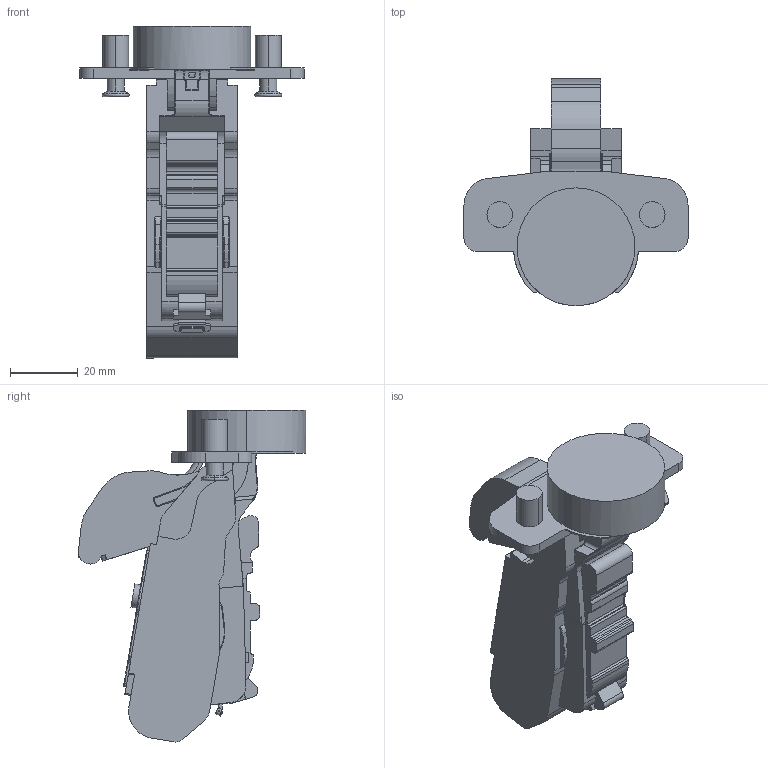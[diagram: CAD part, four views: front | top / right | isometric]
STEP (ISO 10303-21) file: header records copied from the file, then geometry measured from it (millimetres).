
FILE_DESCRIPTION (( 'STEP AP203' ), '1' );
FILE_NAME ('C81A805KFAB DTC 3D CLOSE.STEP', '2024-07-30T01:48:08', ( '微软用户' ), ( '微软中国' ), 'SwSTEP 2.0', 'SolidWorks 2021', '' );
FILE_SCHEMA (( 'CONFIG_CONTROL_DESIGN' ));
Length unit declared in the file: millimetre
Products named in the file (1): C81A805KFAB DTC 3D CLOSE
Bounding box: 66.2 x 67.21 x 98.04 mm (x, y, z)
Volume: 81991.4 mm3; surface area: 19554.7 mm2
Topology: 1 solids, 9 shells, 709 faces, 1946 edges, 1260 vertices
Faces by surface type: plane 307, cylinder 284, torus 83, bspline 16, cone 12, sphere 7
Entity records: 23872 total; most frequent: CARTESIAN_POINT 5707, ORIENTED_EDGE 3888, DIRECTION 3810, EDGE_CURVE 1944, AXIS2_PLACEMENT_3D 1355, VERTEX_POINT 1260, LINE 1100, VECTOR 1100
